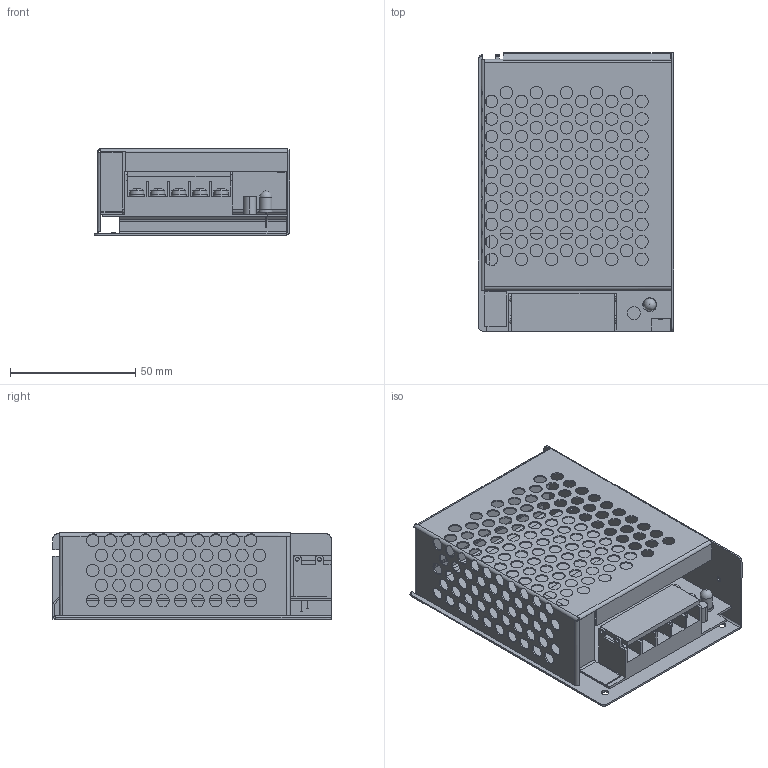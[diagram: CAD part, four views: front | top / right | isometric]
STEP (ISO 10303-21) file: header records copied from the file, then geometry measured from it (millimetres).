
FILE_DESCRIPTION (( 'STEP AP203' ), '1' );
FILE_NAME ('MS-60-12.STEP', '2020-02-26T14:00:42', ( '' ), ( '' ), 'SwSTEP 2.0', 'SolidWorks 2019', '' );
FILE_SCHEMA (( 'CONFIG_CONTROL_DESIGN' ));
Length unit declared in the file: millimetre
Products named in the file (1): MS-60-12
Bounding box: 78 x 111 x 34.34 mm (x, y, z)
Volume: 29074.9 mm3; surface area: 67641.2 mm2
Topology: 15 solids, 15 shells, 738 faces, 1954 edges, 1246 vertices
Faces by surface type: cylinder 444, plane 263, sphere 11, bspline 10, torus 10
Entity records: 24424 total; most frequent: CARTESIAN_POINT 4616, DIRECTION 4379, ORIENTED_EDGE 3902, EDGE_CURVE 1951, AXIS2_PLACEMENT_3D 1743, VERTEX_POINT 1244, EDGE_LOOP 1081, CIRCLE 1014
